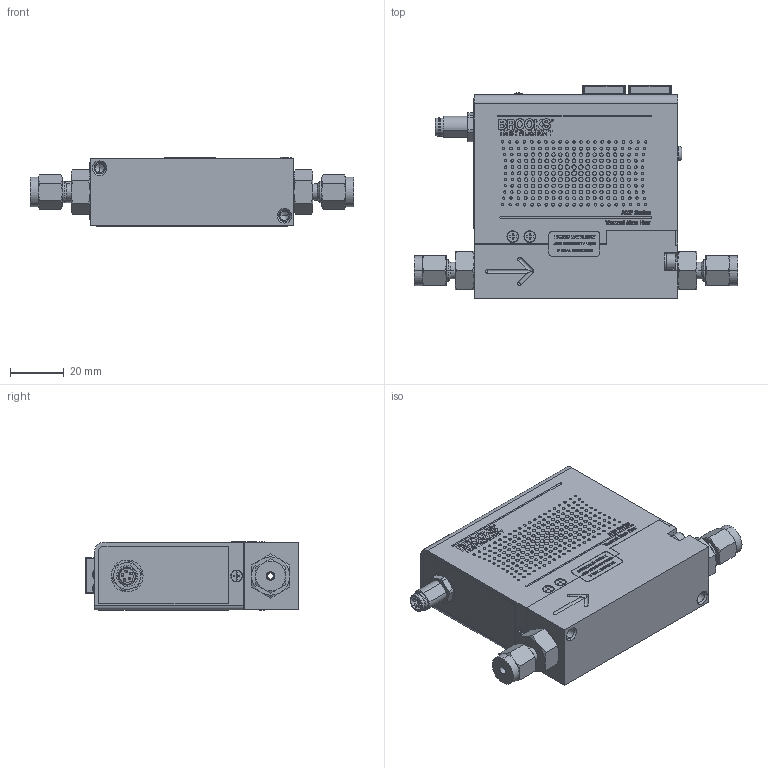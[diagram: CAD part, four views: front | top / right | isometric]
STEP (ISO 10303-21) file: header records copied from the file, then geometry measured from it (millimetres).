
FILE_DESCRIPTION (( 'STEP AP203' ), '1' );
FILE_NAME ('AMF-C-7-S-1C-A.STEP', '2026-05-21T16:34:18', ( '' ), ( '' ), 'SwSTEP 2.0', 'SolidWorks 2023', '' );
FILE_SCHEMA (( 'CONFIG_CONTROL_DESIGN' ));
Products named in the file (1): AMF-C-7-S-1C-A
Bounding box: 120.9 x 79.61 x 25.82 mm (x, y, z)
Volume: 29901.1 mm3; surface area: 46318.5 mm2
Topology: 30 solids, 33 shells, 3938 faces, 9958 edges, 6470 vertices
Faces by surface type: plane 2013, bspline 1247, cylinder 461, cone 179, torus 21, sphere 17
Entity records: 144601 total; most frequent: CARTESIAN_POINT 58705, ORIENTED_EDGE 19824, DIRECTION 13328, EDGE_CURVE 9912, VERTEX_POINT 6454, LINE 6066, VECTOR 6066, EDGE_LOOP 4416
